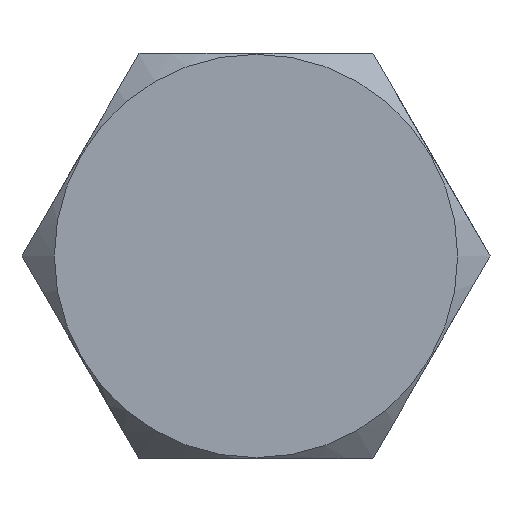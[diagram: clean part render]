
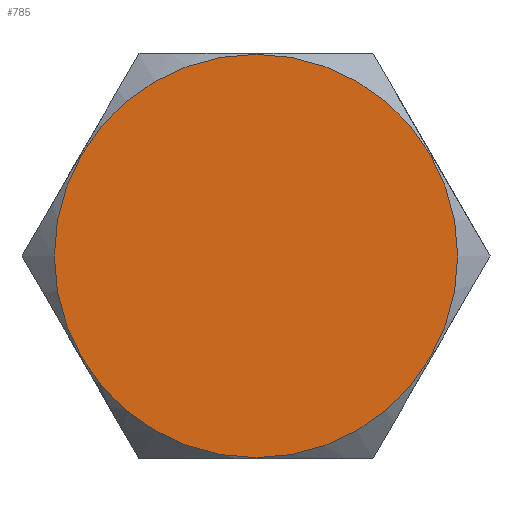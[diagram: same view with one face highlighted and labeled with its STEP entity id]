
A CAD part, front view. The second image highlights one B-rep face of the part: STEP entity #785.
In plain terms, the highlighted planar face has unit normal (0, -1, 0).
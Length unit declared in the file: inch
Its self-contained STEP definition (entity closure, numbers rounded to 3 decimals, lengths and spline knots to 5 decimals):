
#60=PLANE('',#892);
#181=FACE_OUTER_BOUND('',#233,.T.);
#233=EDGE_LOOP('',(#640));
#283=CIRCLE('',#891,0.4975);
#369=VERTEX_POINT('',#1422);
#467=EDGE_CURVE('',#369,#369,#283,.T.);
#640=ORIENTED_EDGE('',*,*,#467,.F.);
#785=ADVANCED_FACE('',(#181),#60,.T.);
#891=AXIS2_PLACEMENT_3D('',#1423,#1073,#1074);
#892=AXIS2_PLACEMENT_3D('',#1425,#1076,#1077);
#1073=DIRECTION('center_axis',(0.,1.,0.));
#1074=DIRECTION('ref_axis',(0.,0.,1.));
#1076=DIRECTION('center_axis',(0.,-1.,0.));
#1077=DIRECTION('ref_axis',(0.,0.,-1.));
#1422=CARTESIAN_POINT('',(0.,0.,-0.4975));
#1423=CARTESIAN_POINT('Origin',(0.,0.,0.));
#1425=CARTESIAN_POINT('Origin',(0.,0.,0.));
